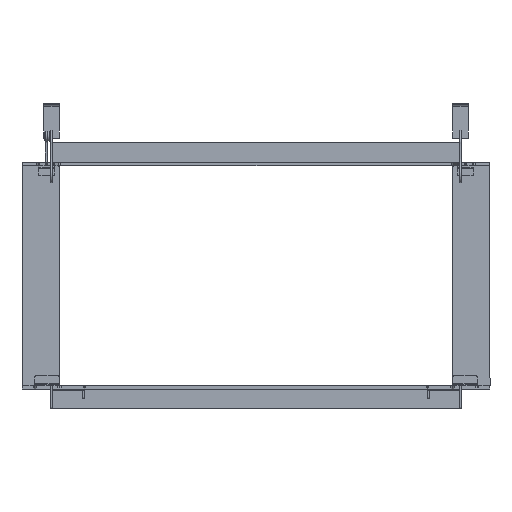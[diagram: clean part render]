
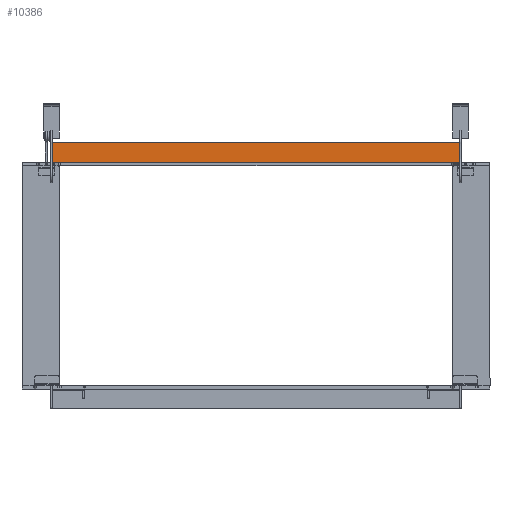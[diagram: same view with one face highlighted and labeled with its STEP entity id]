
A CAD part, front view. The second image highlights one B-rep face of the part: STEP entity #10386.
In plain terms, the highlighted planar face has unit normal (0, -1, 0).
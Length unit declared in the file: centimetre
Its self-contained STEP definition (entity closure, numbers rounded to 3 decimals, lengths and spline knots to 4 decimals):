
#729=LINE('',#16933,#1720);
#792=LINE('',#17143,#1783);
#816=LINE('',#17236,#1807);
#817=LINE('',#17241,#1808);
#1720=VECTOR('',#13580,4.6);
#1783=VECTOR('',#13765,4.6);
#1807=VECTOR('',#13837,101.9);
#1808=VECTOR('',#13842,101.9);
#2237=PLANE('',#11323);
#3084=FACE_OUTER_BOUND('',#3634,.T.);
#3634=EDGE_LOOP('',(#8899,#8900,#8901,#8902,#8903,#8904,#8905,#8906));
#4248=CIRCLE('',#11324,0.2);
#4249=CIRCLE('',#11325,0.2);
#4250=CIRCLE('',#11326,0.2);
#4251=CIRCLE('',#11327,0.2);
#5013=VERTEX_POINT('',#16930);
#5014=VERTEX_POINT('',#16932);
#5099=VERTEX_POINT('',#17140);
#5100=VERTEX_POINT('',#17142);
#5144=VERTEX_POINT('',#17233);
#5145=VERTEX_POINT('',#17235);
#5146=VERTEX_POINT('',#17238);
#5147=VERTEX_POINT('',#17240);
#6316=EDGE_CURVE('',#5013,#5014,#729,.T.);
#6420=EDGE_CURVE('',#5100,#5099,#792,.T.);
#6465=EDGE_CURVE('',#5144,#5013,#4248,.T.);
#6466=EDGE_CURVE('',#5145,#5144,#816,.T.);
#6467=EDGE_CURVE('',#5100,#5145,#4249,.T.);
#6468=EDGE_CURVE('',#5146,#5099,#4250,.T.);
#6469=EDGE_CURVE('',#5147,#5146,#817,.T.);
#6470=EDGE_CURVE('',#5014,#5147,#4251,.T.);
#8899=ORIENTED_EDGE('',*,*,#6465,.F.);
#8900=ORIENTED_EDGE('',*,*,#6466,.F.);
#8901=ORIENTED_EDGE('',*,*,#6467,.F.);
#8902=ORIENTED_EDGE('',*,*,#6420,.T.);
#8903=ORIENTED_EDGE('',*,*,#6468,.F.);
#8904=ORIENTED_EDGE('',*,*,#6469,.F.);
#8905=ORIENTED_EDGE('',*,*,#6470,.F.);
#8906=ORIENTED_EDGE('',*,*,#6316,.F.);
#10386=ADVANCED_FACE('',(#3084),#2237,.F.);
#11323=AXIS2_PLACEMENT_3D('',#17232,#13833,#13834);
#11324=AXIS2_PLACEMENT_3D('',#17234,#13835,#13836);
#11325=AXIS2_PLACEMENT_3D('',#17237,#13838,#13839);
#11326=AXIS2_PLACEMENT_3D('',#17239,#13840,#13841);
#11327=AXIS2_PLACEMENT_3D('',#17242,#13843,#13844);
#13580=DIRECTION('',(0.,0.,1.));
#13765=DIRECTION('',(0.,0.,1.));
#13833=DIRECTION('center_axis',(0.,1.,0.));
#13834=DIRECTION('ref_axis',(-1.,0.,0.));
#13835=DIRECTION('center_axis',(0.,1.,0.));
#13836=DIRECTION('ref_axis',(-0.707,0.,-0.707));
#13837=DIRECTION('',(-1.,0.,0.));
#13838=DIRECTION('center_axis',(0.,1.,0.));
#13839=DIRECTION('ref_axis',(0.707,0.,-0.707));
#13840=DIRECTION('center_axis',(0.,1.,0.));
#13841=DIRECTION('ref_axis',(0.707,0.,0.707));
#13842=DIRECTION('',(1.,0.,0.));
#13843=DIRECTION('center_axis',(0.,1.,0.));
#13844=DIRECTION('ref_axis',(-0.707,0.,0.707));
#16930=CARTESIAN_POINT('',(-51.15,-10.15,1.));
#16932=CARTESIAN_POINT('',(-51.15,-10.15,5.6));
#16933=CARTESIAN_POINT('',(-51.15,-10.15,5.3));
#17140=CARTESIAN_POINT('',(51.15,-10.15,5.6));
#17142=CARTESIAN_POINT('',(51.15,-10.15,1.));
#17143=CARTESIAN_POINT('',(51.15,-10.15,5.8));
#17232=CARTESIAN_POINT('Origin',(0.,-10.15,
3.3));
#17233=CARTESIAN_POINT('',(-50.95,-10.15,0.8));
#17234=CARTESIAN_POINT('Origin',(-50.95,-10.15,1.));
#17235=CARTESIAN_POINT('',(50.95,-10.15,0.8));
#17236=CARTESIAN_POINT('',(0.,-10.15,0.8));
#17237=CARTESIAN_POINT('Origin',(50.95,-10.15,1.));
#17238=CARTESIAN_POINT('',(50.95,-10.15,5.8));
#17239=CARTESIAN_POINT('Origin',(50.95,-10.15,5.6));
#17240=CARTESIAN_POINT('',(-50.95,-10.15,5.8));
#17241=CARTESIAN_POINT('',(-51.15,-10.15,5.8));
#17242=CARTESIAN_POINT('Origin',(-50.95,-10.15,5.6));
